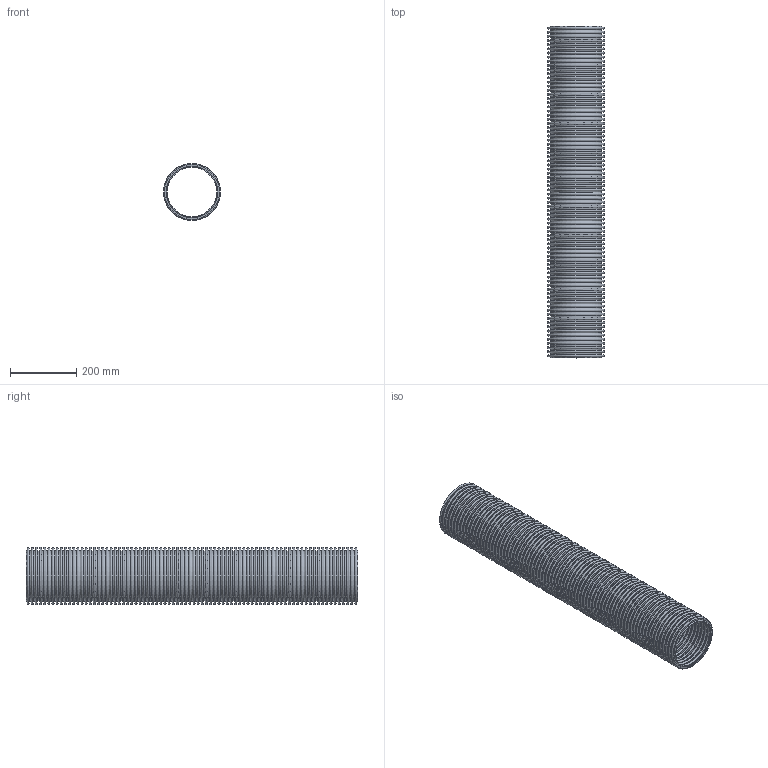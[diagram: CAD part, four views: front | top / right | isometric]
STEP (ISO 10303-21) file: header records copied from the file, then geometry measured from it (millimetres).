
FILE_DESCRIPTION( ( 'Unknown' ), '1' );
FILE_NAME( 'X:/Daten ( aktueller Bestand )/Projekte und Zeichnungen/Solid Edge/STP-Dateien/ISO-K Teile und Zubehör/6973.stp', 'Unknown', ( 'Unknown' ), ( 'Unknown' ), 'PSStep 14.0', 'Unknown', ' ' );
FILE_SCHEMA( ( 'AUTOMOTIVE_DESIGN { 1 0 10303 214 1 1 1 1 }' ) );
Length unit declared in the file: millimetre
Products named in the file (1): 1
Bounding box: 171.99 x 1000 x 171.99 mm (x, y, z)
Volume: 235380.3 mm3; surface area: 2353991.7 mm2
Topology: 1 solids, 1 shells, 644 faces, 967 edges, 645 vertices
Faces by surface type: plane 322, torus 322
Entity records: 18056 total; most frequent: DIRECTION 2578, CARTESIAN_POINT 1933, AXIS2_PLACEMENT_3D 1289, EDGE_LOOP 1288, ORIENTED_EDGE 1288, FACE_OUTER_BOUND 966, STYLED_ITEM 644, PRESENTATION_STYLE_ASSIGNMENT 644
